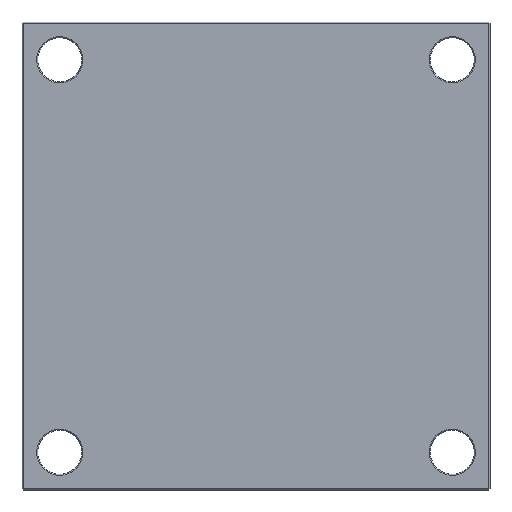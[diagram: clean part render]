
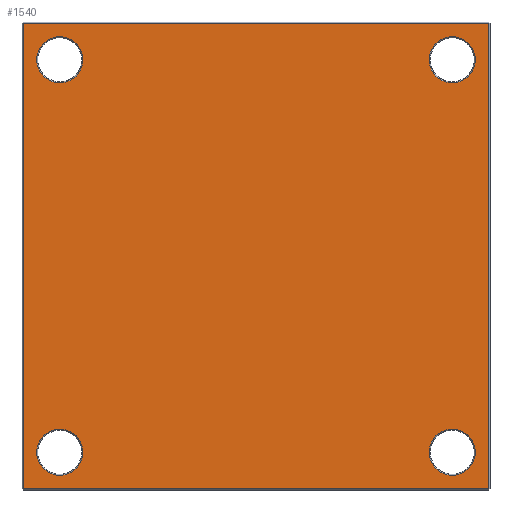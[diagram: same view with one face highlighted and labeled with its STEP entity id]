
A CAD part, front view. The second image highlights one B-rep face of the part: STEP entity #1540.
In plain terms, the highlighted planar face has unit normal (0, -1, 0).
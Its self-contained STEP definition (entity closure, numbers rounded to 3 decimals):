
#5 = VERTEX_POINT ( 'NONE', #648 ) ;
#9 = CARTESIAN_POINT ( 'NONE',  ( -187., 0., -187. ) ) ;
#20 = DIRECTION ( 'NONE',  ( 0., 1., 0. ) ) ;
#26 = DIRECTION ( 'NONE',  ( 0., 0., 1. ) ) ;
#28 = AXIS2_PLACEMENT_3D ( 'NONE', #1331, #1323, #828 ) ;
#38 = CIRCLE ( 'NONE', #165, 22. ) ;
#57 = CARTESIAN_POINT ( 'NONE',  ( 222., 0., -222. ) ) ;
#93 = VERTEX_POINT ( 'NONE', #1394 ) ;
#114 = VERTEX_POINT ( 'NONE', #1849 ) ;
#125 = FACE_BOUND ( 'NONE', #1953, .T. ) ;
#142 = CARTESIAN_POINT ( 'NONE',  ( -187., 0., -209. ) ) ;
#156 = EDGE_CURVE ( 'NONE', #826, #2049, #1322, .T. ) ;
#162 = VERTEX_POINT ( 'NONE', #57 ) ;
#165 = AXIS2_PLACEMENT_3D ( 'NONE', #1895, #1905, #2059 ) ;
#171 = AXIS2_PLACEMENT_3D ( 'NONE', #9, #20, #26 ) ;
#198 = ORIENTED_EDGE ( 'NONE', *, *, #1505, .T. ) ;
#210 = ORIENTED_EDGE ( 'NONE', *, *, #1479, .T. ) ;
#235 = FACE_BOUND ( 'NONE', #997, .T. ) ;
#273 = EDGE_CURVE ( 'NONE', #614, #1026, #1566, .T. ) ;
#363 = DIRECTION ( 'NONE',  ( 0., 0., 1. ) ) ;
#375 = CARTESIAN_POINT ( 'NONE',  ( 0., 0., 0. ) ) ;
#377 = EDGE_CURVE ( 'NONE', #1977, #5, #1946, .T. ) ;
#379 = VECTOR ( 'NONE', #543, 1000. ) ;
#402 = DIRECTION ( 'NONE',  ( -1., 0., 0. ) ) ;
#412 = ORIENTED_EDGE ( 'NONE', *, *, #2003, .T. ) ;
#413 = VERTEX_POINT ( 'NONE', #1353 ) ;
#434 = CARTESIAN_POINT ( 'NONE',  ( 222., 0., 0. ) ) ;
#484 = DIRECTION ( 'NONE',  ( 0., 0., 1. ) ) ;
#503 = AXIS2_PLACEMENT_3D ( 'NONE', #1722, #1557, #1211 ) ;
#511 = EDGE_LOOP ( 'NONE', ( #1896, #1689 ) ) ;
#512 = ORIENTED_EDGE ( 'NONE', *, *, #1188, .T. ) ;
#528 = DIRECTION ( 'NONE',  ( 0., 0., 1. ) ) ;
#530 = CARTESIAN_POINT ( 'NONE',  ( 0., 0., 222. ) ) ;
#543 = DIRECTION ( 'NONE',  ( 1., 0., 0. ) ) ;
#548 = DIRECTION ( 'NONE',  ( 0., 1., 0. ) ) ;
#553 = FACE_OUTER_BOUND ( 'NONE', #1776, .T. ) ;
#579 = DIRECTION ( 'NONE',  ( 0., 1., 0. ) ) ;
#614 = VERTEX_POINT ( 'NONE', #2077 ) ;
#648 = CARTESIAN_POINT ( 'NONE',  ( 187., 0., -209. ) ) ;
#656 = CIRCLE ( 'NONE', #970, 22. ) ;
#711 = EDGE_LOOP ( 'NONE', ( #512, #1065 ) ) ;
#719 = DIRECTION ( 'NONE',  ( 0., 0., -1. ) ) ;
#731 = DIRECTION ( 'NONE',  ( 0., 0., 1. ) ) ;
#786 = ORIENTED_EDGE ( 'NONE', *, *, #1881, .T. ) ;
#790 = CARTESIAN_POINT ( 'NONE',  ( 0., 0., -222. ) ) ;
#809 = LINE ( 'NONE', #790, #379 ) ;
#826 = VERTEX_POINT ( 'NONE', #1984 ) ;
#828 = DIRECTION ( 'NONE',  ( 0., 0., 1. ) ) ;
#865 = AXIS2_PLACEMENT_3D ( 'NONE', #1385, #1393, #1406 ) ;
#895 = CARTESIAN_POINT ( 'NONE',  ( -222., 0., 0. ) ) ;
#903 = CIRCLE ( 'NONE', #28, 22. ) ;
#912 = CARTESIAN_POINT ( 'NONE',  ( 222., 0., 222. ) ) ;
#915 = ORIENTED_EDGE ( 'NONE', *, *, #156, .T. ) ;
#928 = CARTESIAN_POINT ( 'NONE',  ( 187., 0., 165. ) ) ;
#970 = AXIS2_PLACEMENT_3D ( 'NONE', #1388, #579, #528 ) ;
#997 = EDGE_LOOP ( 'NONE', ( #198, #915 ) ) ;
#1001 = EDGE_CURVE ( 'NONE', #1983, #93, #2110, .T. ) ;
#1026 = VERTEX_POINT ( 'NONE', #928 ) ;
#1036 = FACE_BOUND ( 'NONE', #711, .T. ) ;
#1058 = LINE ( 'NONE', #434, #1508 ) ;
#1065 = ORIENTED_EDGE ( 'NONE', *, *, #273, .T. ) ;
#1075 = AXIS2_PLACEMENT_3D ( 'NONE', #1225, #548, #731 ) ;
#1188 = EDGE_CURVE ( 'NONE', #1026, #614, #656, .T. ) ;
#1211 = DIRECTION ( 'NONE',  ( 0., 0., 1. ) ) ;
#1225 = CARTESIAN_POINT ( 'NONE',  ( 187., 0., 187. ) ) ;
#1322 = CIRCLE ( 'NONE', #171, 22. ) ;
#1323 = DIRECTION ( 'NONE',  ( 0., 1., 0. ) ) ;
#1326 = DIRECTION ( 'NONE',  ( 0., 0., 1. ) ) ;
#1331 = CARTESIAN_POINT ( 'NONE',  ( -187., 0., 187. ) ) ;
#1353 = CARTESIAN_POINT ( 'NONE',  ( -222., 0., -222. ) ) ;
#1357 = VERTEX_POINT ( 'NONE', #2027 ) ;
#1382 = CARTESIAN_POINT ( 'NONE',  ( 187., 0., -165. ) ) ;
#1383 = VECTOR ( 'NONE', #719, 1000. ) ;
#1385 = CARTESIAN_POINT ( 'NONE',  ( 187., 0., -187. ) ) ;
#1388 = CARTESIAN_POINT ( 'NONE',  ( 187., 0., 187. ) ) ;
#1393 = DIRECTION ( 'NONE',  ( 0., 1., 0. ) ) ;
#1394 = CARTESIAN_POINT ( 'NONE',  ( -222., 0., 222. ) ) ;
#1406 = DIRECTION ( 'NONE',  ( 0., 0., 1. ) ) ;
#1464 = AXIS2_PLACEMENT_3D ( 'NONE', #1515, #1481, #1326 ) ;
#1479 = EDGE_CURVE ( 'NONE', #413, #162, #809, .T. ) ;
#1481 = DIRECTION ( 'NONE',  ( 0., 1., 0. ) ) ;
#1505 = EDGE_CURVE ( 'NONE', #2049, #826, #2127, .T. ) ;
#1508 = VECTOR ( 'NONE', #484, 1000. ) ;
#1515 = CARTESIAN_POINT ( 'NONE',  ( -187., 0., -187. ) ) ;
#1540 = ADVANCED_FACE ( 'NONE', ( #235, #1847, #1036, #125, #553 ), #1861, .F. ) ;
#1557 = DIRECTION ( 'NONE',  ( 0., 1., 0. ) ) ;
#1566 = CIRCLE ( 'NONE', #1075, 22. ) ;
#1591 = AXIS2_PLACEMENT_3D ( 'NONE', #375, #1999, #363 ) ;
#1600 = CIRCLE ( 'NONE', #503, 22. ) ;
#1637 = EDGE_CURVE ( 'NONE', #162, #1983, #1058, .T. ) ;
#1689 = ORIENTED_EDGE ( 'NONE', *, *, #377, .T. ) ;
#1722 = CARTESIAN_POINT ( 'NONE',  ( -187., 0., 187. ) ) ;
#1776 = EDGE_LOOP ( 'NONE', ( #2156, #1804, #2051, #210 ) ) ;
#1804 = ORIENTED_EDGE ( 'NONE', *, *, #1001, .T. ) ;
#1847 = FACE_BOUND ( 'NONE', #511, .T. ) ;
#1849 = CARTESIAN_POINT ( 'NONE',  ( -187., 0., 165. ) ) ;
#1861 = PLANE ( 'NONE',  #1591 ) ;
#1881 = EDGE_CURVE ( 'NONE', #114, #1357, #1600, .T. ) ;
#1895 = CARTESIAN_POINT ( 'NONE',  ( 187., 0., -187. ) ) ;
#1896 = ORIENTED_EDGE ( 'NONE', *, *, #2014, .T. ) ;
#1905 = DIRECTION ( 'NONE',  ( 0., 1., 0. ) ) ;
#1930 = LINE ( 'NONE', #895, #1383 ) ;
#1946 = CIRCLE ( 'NONE', #865, 22. ) ;
#1953 = EDGE_LOOP ( 'NONE', ( #786, #412 ) ) ;
#1972 = EDGE_CURVE ( 'NONE', #93, #413, #1930, .T. ) ;
#1977 = VERTEX_POINT ( 'NONE', #1382 ) ;
#1983 = VERTEX_POINT ( 'NONE', #912 ) ;
#1984 = CARTESIAN_POINT ( 'NONE',  ( -187., 0., -165. ) ) ;
#1999 = DIRECTION ( 'NONE',  ( 0., 1., 0. ) ) ;
#2003 = EDGE_CURVE ( 'NONE', #1357, #114, #903, .T. ) ;
#2014 = EDGE_CURVE ( 'NONE', #5, #1977, #38, .T. ) ;
#2027 = CARTESIAN_POINT ( 'NONE',  ( -187., 0., 209. ) ) ;
#2046 = VECTOR ( 'NONE', #402, 1000. ) ;
#2049 = VERTEX_POINT ( 'NONE', #142 ) ;
#2051 = ORIENTED_EDGE ( 'NONE', *, *, #1972, .T. ) ;
#2059 = DIRECTION ( 'NONE',  ( 0., 0., 1. ) ) ;
#2077 = CARTESIAN_POINT ( 'NONE',  ( 187., 0., 209. ) ) ;
#2110 = LINE ( 'NONE', #530, #2046 ) ;
#2127 = CIRCLE ( 'NONE', #1464, 22. ) ;
#2156 = ORIENTED_EDGE ( 'NONE', *, *, #1637, .T. ) ;
